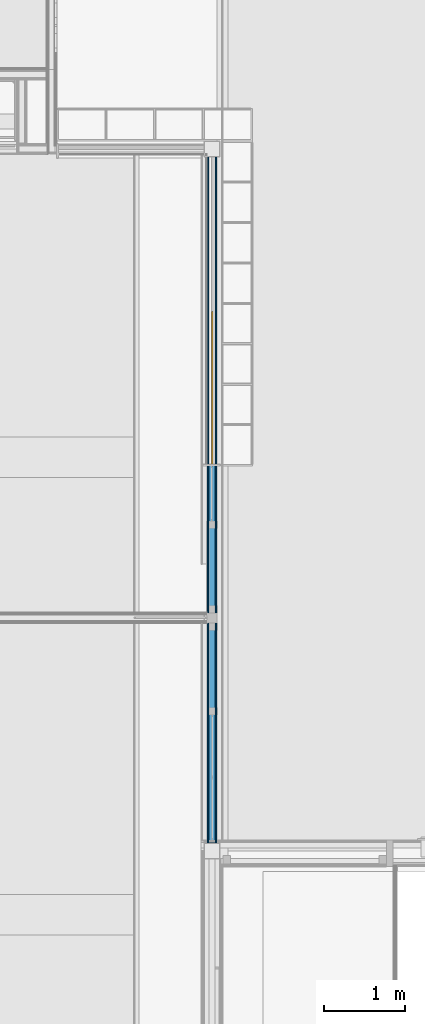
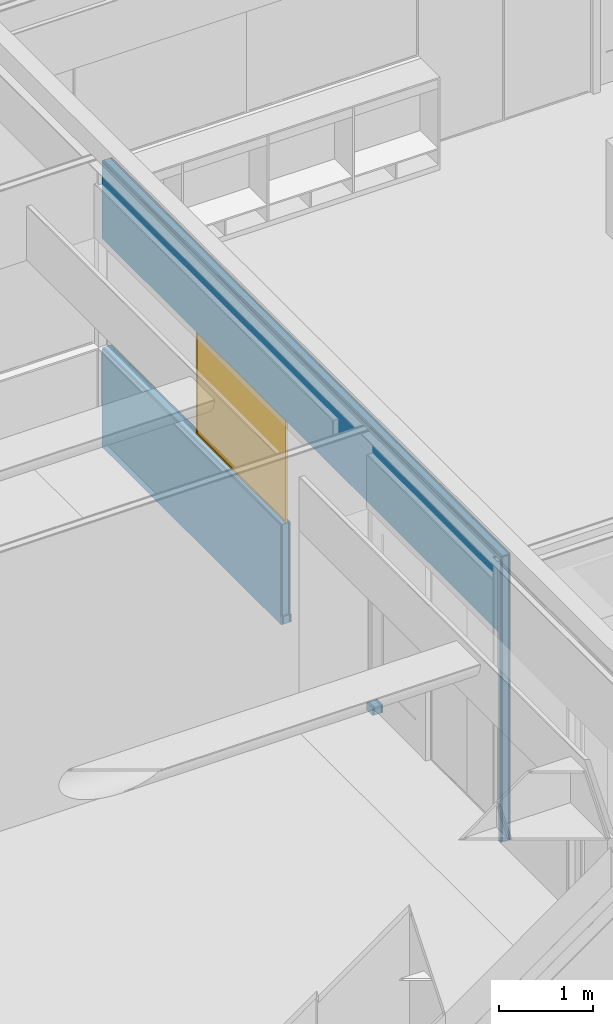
# One storey, part 58 of 137: 5 building element parts, 1 door, 7 openings, 1 element without a shape of its own.
"""IFC2X3 building model written with IfcOpenShell, lengths in millimetres."""

import ifcopenshell
import ifcopenshell.guid

model = None  # the IFC model being written
_history = None  # IfcOwnerHistory: only IFC2X3 demands one
_inside = {}  # id of a spatial element -> (the spatial element, [elements in it])
_under = {}  # id of a project, library or spatial element -> (it, [spatial elements below it])
_declared = {}  # id of a project -> (the project, [libraries it declares])
_typed = {}  # id of a type object -> (the type object, [elements of that type])
_made_of = {}  # id of a material, layer set ... -> (it, [elements and type objects made of it])


def new_model(schema):
    """Start an empty IFC model of exactly this schema.

    Asked for "IFC4X3", IfcOpenShell would pick the latest addendum, in which some entities
    have other attributes; the version numbers below select the first issue.
    IFC2X3 requires an IfcOwnerHistory on every rooted entity: one is made here for all.
    """
    global model, _history
    if schema == "IFC4X3":
        model = ifcopenshell.file(schema_version=(4, 3, 0, 0))
    else:
        model = ifcopenshell.file(schema=schema)
    _inside.clear()
    _under.clear()
    _declared.clear()
    _typed.clear()
    _made_of.clear()
    _history = None
    if model.schema == "IFC2X3":
        org = make("IfcOrganization", Name="unknown")
        user = make(
            "IfcPersonAndOrganization",
            ThePerson=make("IfcPerson", FamilyName="unknown"),
            TheOrganization=org,
        )
        app = make(
            "IfcApplication",
            ApplicationDeveloper=org,
            Version="unknown",
            ApplicationFullName="unknown",
            ApplicationIdentifier="unknown",
        )
        _history = make(
            "IfcOwnerHistory",
            OwningUser=user,
            OwningApplication=app,
            ChangeAction="ADDED",
            CreationDate=0,
        )
    return model


def make(cls, **values):
    """One entity of the class cls with the attributes given. An attribute that is None is left unset."""
    return model.create_entity(
        cls, **{name: value for name, value in values.items() if value is not None}
    )


def entity(cls, *values):
    """Any entity or typed value of the class cls, its attributes in the order of the schema. None: left unset."""
    e = model.create_entity(cls)
    for i, value in enumerate(values):
        if value is not None:
            e[i] = value
    return e


def rooted(cls, **values):
    """An entity with a GlobalId (a new one), such as an element, a storey or a relation."""
    return make(cls, GlobalId=ifcopenshell.guid.new(), OwnerHistory=_history, **values)


def si_unit(unit_type, name, prefix=None):
    """IfcSIUnit, for example si_unit("LENGTHUNIT", "METRE", prefix="MILLI")."""
    return make("IfcSIUnit", UnitType=unit_type, Prefix=prefix, Name=name)


def converted_unit(unit_type, name, factor, base, dimensions=None, offset=None):
    """IfcConversionBasedUnit, such as the inch: factor (a typed value) times the base unit."""
    return make(
        "IfcConversionBasedUnit"
        if offset is None
        else "IfcConversionBasedUnitWithOffset",
        ConversionOffset=offset,
        Dimensions=None
        if dimensions is None
        else entity("IfcDimensionalExponents", *dimensions),
        UnitType=unit_type,
        Name=name,
        ConversionFactor=make(
            "IfcMeasureWithUnit", ValueComponent=factor, UnitComponent=base
        ),
    )


def derived_unit(unit_type, elements):
    """IfcDerivedUnit: a product of units, each with its exponent."""
    return make(
        "IfcDerivedUnit",
        Elements=[
            make("IfcDerivedUnitElement", Unit=unit, Exponent=power)
            for unit, power in elements
        ],
        UnitType=unit_type,
    )


def money_unit(currency):
    """IfcMonetaryUnit."""
    return make("IfcMonetaryUnit", Currency=currency)


def assignment(units):
    """IfcUnitAssignment: the units of a project."""
    return None if units is None else make("IfcUnitAssignment", Units=units)


def point(xyz):
    """IfcCartesianPoint."""
    return None if xyz is None else make("IfcCartesianPoint", Coordinates=xyz)


def direction(xyz):
    """IfcDirection."""
    return None if xyz is None else make("IfcDirection", DirectionRatios=xyz)


def frame(location, z_axis=None, x_axis=None):
    """IfcAxis2Placement3D, a coordinate frame: its origin and axes. An axis left out is left unset."""
    return make(
        "IfcAxis2Placement3D",
        Location=point(location),
        Axis=direction(z_axis),
        RefDirection=direction(x_axis),
    )


def origin_with_axes():
    """The frame at (0, 0, 0) with the z axis (0, 0, 1) and the x axis (1, 0, 0) written out."""
    return frame((0.0, 0.0, 0.0), z_axis=(0.0, 0.0, 1.0), x_axis=(1.0, 0.0, 0.0))


def place(relative_to, where):
    """IfcLocalPlacement: puts the frame where relative to a parent placement (None: the world)."""
    return make(
        "IfcLocalPlacement", PlacementRelTo=relative_to, RelativePlacement=where
    )


def context(
    kind, dimensions, precision=None, world=None, true_north=None, identifier=None
):
    """IfcGeometricRepresentationContext, for example the 3D "Model" context."""
    return make(
        "IfcGeometricRepresentationContext",
        ContextIdentifier=identifier,
        ContextType=kind,
        CoordinateSpaceDimension=dimensions,
        Precision=precision,
        WorldCoordinateSystem=world,
        TrueNorth=true_north,
    )


def subcontext(parent, identifier, kind, view, scale=None):
    """IfcGeometricRepresentationSubContext, for example "Body" below "Model"."""
    return make(
        "IfcGeometricRepresentationSubContext",
        ContextIdentifier=identifier,
        ContextType=kind,
        ParentContext=parent,
        TargetScale=scale,
        TargetView=view,
    )


def project(units=None, contexts=None):
    """IfcProject with its units and contexts."""
    return rooted(
        "IfcProject",
        Name="project",
        RepresentationContexts=contexts,
        UnitsInContext=assignment(units),
    )


def spatial(cls, under=None, at=None, **own):
    """A site, building, storey or space (cls), placed at a placement, below another one or the project."""
    s = rooted(cls, ObjectPlacement=at, **own)
    if under is not None:
        _under.setdefault(under.id(), (under, []))[1].append(s)
    return s


def faces_of(points, faces, orient=None, outer=None):
    """IfcFace entities. A face is a list of loops; a loop is a list of indices into points, from 0.

    orient and outer hold one flag for each loop. By default every Orientation is true, the
    first loop of a face is its IfcFaceOuterBound and the others are IfcFaceBound.
    """
    made = []
    for i, loops in enumerate(faces):
        bounds = []
        for j, loop in enumerate(loops):
            is_outer = j == 0 if outer is None else outer[i][j]
            bounds.append(
                make(
                    "IfcFaceOuterBound" if is_outer else "IfcFaceBound",
                    Bound=make("IfcPolyLoop", Polygon=[points[k] for k in loop]),
                    Orientation=True if orient is None else orient[i][j],
                )
            )
        made.append(make("IfcFace", Bounds=bounds))
    return made


def open_shell(faces, orient=None, outer=None):
    """The faces of one IfcOpenShell. surface_model builds it on its shared points."""
    return ("IfcOpenShell", faces, orient, outer)


def faceted_brep(points, faces, orient=None, outer=None, voids=None):
    """IfcFacetedBrep: a solid bounded by flat faces; with voids (closed shells), ...WithVoids."""
    shared = [point(p) for p in points]
    hull = make("IfcClosedShell", CfsFaces=faces_of(shared, faces, orient, outer))
    if voids is None:
        return make("IfcFacetedBrep", Outer=hull)
    return make(
        "IfcFacetedBrepWithVoids",
        Outer=hull,
        Voids=[
            make(cls, CfsFaces=faces_of(shared, fs, o, b)) for cls, fs, o, b in voids
        ],
    )


def surface_model(cls, points, shells):
    """IfcFaceBasedSurfaceModel or IfcShellBasedSurfaceModel (cls): surfaces that need not close."""
    shared = [point(p) for p in points]
    made = [make(c, CfsFaces=faces_of(shared, fs, o, b)) for c, fs, o, b in shells]
    if cls == "IfcFaceBasedSurfaceModel":
        return make(cls, FbsmFaces=made)
    return make(cls, SbsmBoundary=made)


def shape(context_of_items, identifier, shape_type, items):
    """IfcShapeRepresentation: the items that make up one representation, for example the "Body"."""
    return make(
        "IfcShapeRepresentation",
        ContextOfItems=context_of_items,
        RepresentationIdentifier=identifier,
        RepresentationType=shape_type,
        Items=items,
    )


def material(Name=None, Category=None):
    """IfcMaterial."""
    return make("IfcMaterial", Name=Name, Category=Category)


def made_of(thing, what):
    """Note that an element or type object is made of a material, layer set ...; save() writes the relation."""
    if what is not None:
        _made_of.setdefault(what.id(), (what, []))[1].append(thing)
    return thing


def type_object(cls, material=None, **own):
    """A type object (cls), such as IfcWallType, which elements share."""
    return made_of(rooted(cls, **own), material)


def element(
    cls,
    number,
    at=None,
    inside=None,
    cuts=None,
    type_object=None,
    material=None,
    context=None,
    identifier="Body",
    shape_type=None,
    held_by="IfcProductDefinitionShape",
    body=None,
    shapes=None,
    **own,
):
    """One element of the class cls, such as IfcWall. Its Tag is "e" and its number.

    at: its placement. inside: the storey or other place that contains it. cuts: it is an
    opening in that element (IfcRelVoidsElement). A single representation is given by context,
    identifier, shape_type and body (its items); several are given by shapes. held_by: the class
    of the entity that holds the representations. save() writes the other relations.
    """
    e = rooted(cls, Tag="e%d" % number, ObjectPlacement=at, **own)
    if body is not None:
        shapes = [shape(context, identifier, shape_type, body)]
    if shapes is not None:
        e.Representation = make(held_by, Representations=shapes)
    if inside is not None:
        _inside.setdefault(inside.id(), (inside, []))[1].append(e)
    if cuts is not None:
        rooted(
            "IfcRelVoidsElement", RelatingBuildingElement=cuts, RelatedOpeningElement=e
        )
    if type_object is not None:
        _typed.setdefault(type_object.id(), (type_object, []))[1].append(e)
    return made_of(e, material)


def fill(opening, filler):
    """IfcRelFillsElement: the door or window that sits in an opening."""
    return rooted(
        "IfcRelFillsElement",
        RelatingOpeningElement=opening,
        RelatedBuildingElement=filler,
    )


def aggregate(whole, parts):
    """IfcRelAggregates: a whole, such as a stair, and the parts it consists of."""
    return rooted("IfcRelAggregates", RelatingObject=whole, RelatedObjects=parts)


def save(model, path):
    """Write the relations noted so far, then the file.

    IfcRelAggregates (storeys below a building ...), IfcRelContainedInSpatialStructure (elements
    in a storey), IfcRelDefinesByType, IfcRelAssociatesMaterial and IfcRelDeclares: one each for
    every whole, place, type object, material and project.
    """
    for whole, parts in _under.values():
        aggregate(whole, parts)
    for where, things in _inside.values():
        rooted(
            "IfcRelContainedInSpatialStructure",
            RelatedElements=things,
            RelatingStructure=where,
        )
    for kind, things in _typed.values():
        rooted("IfcRelDefinesByType", RelatedObjects=things, RelatingType=kind)
    for what, things in _made_of.values():
        rooted("IfcRelAssociatesMaterial", RelatedObjects=things, RelatingMaterial=what)
    for by, libraries in _declared.values():
        rooted("IfcRelDeclares", RelatingContext=by, RelatedDefinitions=libraries)
    model.write(path)


model = new_model("IFC2X3")

# Units and contexts
model_context = context("Model", 3, precision=0.01, world=origin_with_axes(), true_north=direction((0.0, 1.0)))
body_context = subcontext(model_context, "Body", "Model", "MODEL_VIEW")
ifc_project = project(units=[si_unit("LENGTHUNIT", "METRE", prefix="MILLI"), si_unit("AREAUNIT", "SQUARE_METRE"), si_unit("VOLUMEUNIT", "CUBIC_METRE"), converted_unit("PLANEANGLEUNIT", "DEGREE", entity("IfcPlaneAngleMeasure", 0.0174532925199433), si_unit("PLANEANGLEUNIT", "RADIAN"), dimensions=[0, 0, 0, 0, 0, 0, 0]), money_unit("EUR"), converted_unit("TIMEUNIT", "Year", entity("IfcTimeMeasure", 31556926.0), si_unit("TIMEUNIT", "SECOND"), dimensions=[0, 0, 1, 0, 0, 0, 0]), si_unit("MASSUNIT", "GRAM", prefix="KILO"), si_unit("THERMODYNAMICTEMPERATUREUNIT", "DEGREE_CELSIUS"), si_unit("LUMINOUSINTENSITYUNIT", "LUMEN"), si_unit("ENERGYUNIT", "JOULE", prefix="MEGA"), derived_unit("THERMALCONDUCTANCEUNIT", [(si_unit("POWERUNIT", "WATT"), 1), (si_unit("LENGTHUNIT", "METRE"), -1), (si_unit("THERMODYNAMICTEMPERATUREUNIT", "KELVIN"), -1)]), derived_unit("SPECIFICHEATCAPACITYUNIT", [(si_unit("ENERGYUNIT", "JOULE"), 1), (si_unit("MASSUNIT", "GRAM", prefix="KILO"), -1), (si_unit("THERMODYNAMICTEMPERATUREUNIT", "KELVIN"), -1)]), derived_unit("MASSDENSITYUNIT", [(si_unit("MASSUNIT", "GRAM", prefix="KILO"), 1), (si_unit("VOLUMEUNIT", "CUBIC_METRE"), -1)])], contexts=[model_context])

# Site, building, storey
site_placement = place(None, origin_with_axes())
site = spatial("IfcSite", under=ifc_project, at=site_placement, Name="Site", CompositionType="ELEMENT")
building_placement = place(site_placement, origin_with_axes())
building = spatial("IfcBuilding", under=site, at=building_placement, Name="Naam gebouw", CompositionType="ELEMENT")
storey_placement = place(building_placement, frame((0.0, 0.0, 3960.0), z_axis=(0.0, 0.0, 1.0), x_axis=(1.0, 0.0, 0.0)))
storey = spatial("IfcBuildingStorey", under=building, at=storey_placement, Name="1e verdieping", CompositionType="ELEMENT", Elevation=3960.0)

# Door
door_style = type_object("IfcDoorStyle", Name="R1 26", ConstructionType="NOTDEFINED", OperationType="SINGLE_SWING_RIGHT", ParameterTakesPrecedence=False, Sizeable=False)
proxy_placement = place(storey_placement, frame((8850.000000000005, 19449.9998112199, -100.0000000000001), z_axis=(0.0, 0.0, 1.0), x_axis=(0.0, -1.0, 0.0)))
opening_2_placement = place(proxy_placement, frame((2950.000000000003, 0.0, 1298.0), z_axis=(0.0, 0.0, 1.0), x_axis=(1.0, 0.0, 0.0)))
door_placement = place(opening_2_placement, frame((-949.9999999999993, 0.0, 0.0), z_axis=(0.0, 0.0, 1.0), x_axis=(1.0, 0.0, 0.0)))
door = element("IfcDoor", 1, at=door_placement, inside=storey, type_object=door_style, Name="_C.02", ObjectType="DOOR", OverallHeight=1400.0, OverallWidth=1900.0, context=body_context, shape_type="SurfaceModel", body=[
    faceted_brep([(1900.004002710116, 12.49999999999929, 2.000000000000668), (0.0, 12.49999999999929, 2.000000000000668), (0.0, 12.49999999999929, 19.99999999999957), (19.99999999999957, 12.49999999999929, 19.99999999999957), (1880.000000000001, 12.49999999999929, 19.99999999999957), (1900.0, 12.49999999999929, 19.99999999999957), (0.0, -7.500000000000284, 2.000000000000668), (1900.004002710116, -7.500000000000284, 2.000000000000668), (0.0, -7.500000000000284, 19.99999999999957), (19.99999999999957, -7.500000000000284, 19.99999999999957), (1880.000000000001, -7.500000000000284, 19.99999999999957), (1900.0, -7.500000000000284, 19.99999999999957)], [[[0, 1, 2, 3, 4, 5]], [[6, 1, 0, 7]], [[1, 6, 8, 2]], [[8, 9, 3, 2]], [[9, 10, 4, 3]], [[10, 11, 5, 4]], [[7, 0, 5, 11]], [[6, 7, 11, 10, 9, 8]]]),
    faceted_brep([(19.99999999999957, -7.500000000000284, 1380.0), (19.99999999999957, 12.49999999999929, 1380.0), (0.0, 12.49999999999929, 1380.0), (0.0, -7.500000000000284, 1380.0), (19.99999999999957, -7.500000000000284, 19.99999999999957), (19.99999999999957, 12.49999999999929, 19.99999999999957), (0.0, 12.49999999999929, 19.99999999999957), (0.0, -7.500000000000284, 19.99999999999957)], [[[0, 1, 2, 3]], [[4, 5, 1, 0]], [[1, 5, 6, 2]], [[3, 2, 6, 7]], [[0, 3, 7, 4]], [[7, 6, 5, 4]]]),
    faceted_brep([(1880.000000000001, -7.500000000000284, 19.99999999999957), (1880.000000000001, 12.49999999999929, 19.99999999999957), (1900.0, 12.49999999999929, 19.99999999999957), (1900.0, -7.500000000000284, 19.99999999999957), (1880.000000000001, -7.500000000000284, 1380.0), (1880.000000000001, 12.49999999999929, 1380.0), (1900.0, 12.49999999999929, 1380.0), (1900.0, -7.500000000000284, 1380.0)], [[[0, 1, 2, 3]], [[4, 5, 1, 0]], [[1, 5, 6, 2]], [[3, 2, 6, 7]], [[0, 3, 7, 4]], [[7, 6, 5, 4]]]),
    faceted_brep([(1880.000000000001, -7.500000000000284, 1380.0), (1880.000000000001, 12.49999999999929, 1380.0), (1900.0, 12.49999999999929, 1380.0), (1900.0, -7.500000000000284, 1380.0), (19.99999999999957, -7.500000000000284, 1380.0), (19.99999999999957, 12.49999999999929, 1380.0), (0.0, 12.49999999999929, 1380.0), (0.0, 12.49999999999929, 1400.0), (1900.0, 12.49999999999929, 1400.0), (1900.0, -7.500000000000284, 1400.0), (0.0, -7.500000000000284, 1400.0), (0.0, -7.500000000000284, 1380.0)], [[[0, 1, 2, 3]], [[4, 5, 1, 0]], [[1, 5, 6, 7, 8, 2]], [[3, 2, 8, 9]], [[0, 3, 9, 10, 11, 4]], [[11, 6, 5, 4]], [[10, 7, 6, 11]], [[9, 8, 7, 10]]]),
    surface_model("IfcShellBasedSurfaceModel", [(19.99999999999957, -2.500000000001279, 19.99999999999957), (1880.000000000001, -2.500000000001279, 19.99999999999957), (1880.000000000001, -2.500000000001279, 1380.0), (19.99999999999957, -2.500000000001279, 1380.0)], [open_shell([[[0, 1, 2, 3]]])]),
    surface_model("IfcShellBasedSurfaceModel", [(19.99999999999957, 7.500000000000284, 19.99999999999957), (19.99999999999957, 7.499999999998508, 1380.0), (1880.000000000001, 7.499999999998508, 1380.0), (1880.000000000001, 7.499999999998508, 19.99999999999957)], [open_shell([[[0, 1, 2, 3]]])]),
])

# Proxy, openings
building_element_proxy_type = type_object("IfcBuildingElementProxyType", Name="22 Metal stud 125 gips 125", PredefinedType="NOTDEFINED")
proxy = element("IfcBuildingElementProxy", 2, at=proxy_placement, inside=storey, type_object=building_element_proxy_type, Name="_Wand-x")
opening_1_placement = place(proxy_placement, frame((8119.999775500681, 0.0, 100.0000000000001), z_axis=(0.0, 0.0, 1.0), x_axis=(1.0, 0.0, 0.0)))
element("IfcOpeningElement", 3, at=opening_1_placement, cuts=proxy, Name="_B.08", context=body_context, shape_type="Brep", body=[
    faceted_brep([(-384.999925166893, 12.49999999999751, -100.0000000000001), (-384.999925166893, 12.49999999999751, 2600.0), (-384.999925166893, 63.49999999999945, 2600.0), (-384.999925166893, 63.49999999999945, -100.0000000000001), (-384.999925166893, -63.49999999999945, -100.0000000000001), (-384.999925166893, -63.49999999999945, 2600.0), (384.999925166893, 12.49999999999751, 2600.0), (384.999925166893, 63.49999999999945, 2600.0), (384.999925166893, -63.49999999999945, 2600.0), (384.999925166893, 63.49999999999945, -100.0000000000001), (384.999925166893, 12.49999999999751, -100.0000000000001), (384.999925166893, -63.49999999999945, -100.0000000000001)], [[[0, 1, 2, 3]], [[1, 0, 4, 5]], [[6, 7, 2, 1, 5, 8]], [[7, 9, 3, 2]], [[0, 3, 9, 10, 11, 4]], [[5, 4, 11, 8]], [[6, 10, 9, 7]], [[10, 6, 8, 11]]]),
])
opening_2 = element("IfcOpeningElement", 4, at=opening_2_placement, cuts=proxy, Name="_C.02", context=body_context, shape_type="Brep", body=[
    faceted_brep([(-949.9999999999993, 12.49999999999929, 0.0), (-949.9999999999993, 12.49999999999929, 1400.0), (-949.9999999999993, 63.49999999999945, 1400.0), (-949.9999999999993, 63.49999999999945, 0.0), (-949.9999999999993, -63.49999999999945, 0.0), (-949.9999999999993, -63.49999999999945, 1400.0), (950.000000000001, 12.49999999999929, 1400.0), (950.000000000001, 63.49999999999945, 1400.0), (950.000000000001, -63.49999999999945, 1400.0), (950.000000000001, 63.49999999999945, 0.0), (950.000000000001, 12.49999999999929, 0.0), (950.000000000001, -63.49999999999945, 0.0)], [[[0, 1, 2, 3]], [[1, 0, 4, 5]], [[6, 7, 2, 1, 5, 8]], [[7, 9, 3, 2]], [[0, 3, 9, 10, 11, 4]], [[5, 4, 11, 8]], [[6, 10, 9, 7]], [[10, 6, 8, 11]]]),
])

fill(opening_2, door)

# Opening
opening_3_placement = place(proxy_placement, frame((4240.000000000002, 0.0, 100.0000000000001), z_axis=(0.0, 0.0, 1.0), x_axis=(1.0, 0.0, 0.0)))
element("IfcOpeningElement", 5, at=opening_3_placement, cuts=proxy, Name="_B.07", context=body_context, shape_type="Brep", body=[
    faceted_brep([(339.9999999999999, -12.49999999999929, -100.0000000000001), (339.9999999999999, -12.49999999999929, 2600.0), (339.9999999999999, -63.49999999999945, 2600.0), (339.9999999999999, -63.49999999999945, -100.0000000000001), (339.9999999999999, 63.49999999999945, -100.0000000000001), (339.9999999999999, 63.49999999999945, 2600.0), (-339.9999999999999, -12.49999999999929, 2600.0), (-339.9999999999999, -63.49999999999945, 2600.0), (-339.9999999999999, 63.49999999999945, 2600.0), (-339.9999999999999, -63.49999999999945, -100.0000000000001), (-339.9999999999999, -12.49999999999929, -100.0000000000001), (-339.9999999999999, 63.49999999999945, -100.0000000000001)], [[[0, 1, 2, 3]], [[1, 0, 4, 5]], [[6, 7, 2, 1, 5, 8]], [[7, 9, 3, 2]], [[0, 3, 9, 10, 11, 4]], [[5, 4, 11, 8]], [[6, 10, 9, 7]], [[10, 6, 8, 11]]]),
])

opening_4_placement = place(proxy_placement, frame((5145.000000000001, 0.0, 100.0000000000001), z_axis=(0.0, 0.0, 1.0), x_axis=(1.0, 0.0, 0.0)))
element("IfcOpeningElement", 6, at=opening_4_placement, cuts=proxy, Name="_02.01", context=body_context, shape_type="Brep", body=[
    faceted_brep([(564.9999999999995, 63.49999999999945, 2600.0), (564.9999999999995, 63.49999999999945, -100.0000000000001), (-564.9999999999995, 63.49999999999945, -100.0000000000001), (-564.9999999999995, 63.49999999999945, 2600.0), (564.9999999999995, -63.49999999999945, 2600.0), (564.9999999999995, -63.49999999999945, -100.0000000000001), (-564.9999999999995, -63.49999999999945, -100.0000000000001), (-564.9999999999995, -63.49999999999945, 2600.0)], [[[0, 1, 2, 3]], [[4, 5, 1, 0]], [[5, 6, 2, 1]], [[6, 7, 3, 2]], [[7, 4, 0, 3]], [[6, 5, 4, 7]]]),
])

opening_5_placement = place(proxy_placement, frame((7349.999925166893, 0.0, 100.0000000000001), z_axis=(0.0, 0.0, 1.0), x_axis=(1.0, 0.0, 0.0)))
element("IfcOpeningElement", 7, at=opening_5_placement, cuts=proxy, Name="_B.08", context=body_context, shape_type="Brep", body=[
    faceted_brep([(-384.999925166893, 12.49999999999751, -100.0000000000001), (-384.999925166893, 12.49999999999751, 2600.0), (-384.999925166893, 63.49999999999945, 2600.0), (-384.999925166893, 63.49999999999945, -100.0000000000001), (-384.999925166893, -63.49999999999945, -100.0000000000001), (-384.999925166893, -63.49999999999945, 2600.0), (384.999925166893, 12.49999999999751, 2600.0), (384.999925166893, 63.49999999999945, 2600.0), (384.999925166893, -63.49999999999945, 2600.0), (384.999925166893, 63.49999999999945, -100.0000000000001), (384.999925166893, 12.49999999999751, -100.0000000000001), (384.999925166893, -63.49999999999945, -100.0000000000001)], [[[0, 1, 2, 3]], [[1, 0, 4, 5]], [[6, 7, 2, 1, 5, 8]], [[7, 9, 3, 2]], [[0, 3, 9, 10, 11, 4]], [[5, 4, 11, 8]], [[6, 10, 9, 7]], [[10, 6, 8, 11]]]),
])

opening_6_placement = place(proxy_placement, frame((6400.0, 0.0, 100.0000000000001), z_axis=(0.0, 0.0, 1.0), x_axis=(1.0, 0.0, 0.0)))
element("IfcOpeningElement", 8, at=opening_6_placement, cuts=proxy, Name="_01.01", context=body_context, shape_type="Brep", body=[
    faceted_brep([(-564.9999999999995, -63.49999999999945, 2600.0), (-564.9999999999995, -63.49999999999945, -100.0000000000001), (564.9999999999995, -63.49999999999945, -100.0000000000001), (564.9999999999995, -63.49999999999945, 2600.0), (-564.9999999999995, 63.49999999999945, 2600.0), (-564.9999999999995, 63.49999999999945, -100.0000000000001), (564.9999999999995, 63.49999999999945, -100.0000000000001), (564.9999999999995, 63.49999999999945, 2600.0)], [[[0, 1, 2, 3]], [[4, 5, 1, 0]], [[5, 6, 2, 1]], [[6, 7, 3, 2]], [[7, 4, 0, 3]], [[6, 5, 4, 7]]]),
])

opening_7_placement = place(proxy_placement, frame((1050.000000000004, 0.0, 1298.0), z_axis=(0.0, 0.0, 1.0), x_axis=(1.0, 0.0, 0.0)))
element("IfcOpeningElement", 9, at=opening_7_placement, cuts=proxy, Name="_C.02", context=body_context, shape_type="Brep", body=[
    faceted_brep([(-949.9999999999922, 12.49999999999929, 0.0), (-949.9999999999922, 12.49999999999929, 1400.0), (-949.9999999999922, 63.49999999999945, 1400.0), (-949.9999999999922, 63.49999999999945, 0.0), (-949.9999999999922, -63.49999999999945, 0.0), (-949.9999999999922, -63.49999999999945, 1400.0), (949.9999999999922, 12.49999999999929, 1400.0), (949.9999999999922, 63.49999999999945, 1400.0), (949.9999999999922, -63.49999999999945, 1400.0), (949.9999999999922, 63.49999999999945, 0.0), (949.9999999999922, 12.49999999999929, 0.0), (949.9999999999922, -63.49999999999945, 0.0)], [[[0, 1, 2, 3]], [[1, 0, 4, 5]], [[6, 7, 2, 1, 5, 8]], [[7, 9, 3, 2]], [[0, 3, 9, 10, 11, 4]], [[5, 4, 11, 8]], [[6, 10, 9, 7]], [[10, 6, 8, 11]]]),
])

# Building element part
ifc_material_1 = material(Name="Gipsplaat")
building_element_part_1_placement = place(proxy_placement, origin_with_axes())
building_element_part_1 = element("IfcBuildingElementPart", 10, at=building_element_part_1_placement, material=ifc_material_1, Name="Gipsplaat", context=body_context, shape_type="Brep", body=[
    faceted_brep([(100.0000000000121, 37.49999999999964, 1280.000000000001), (100.0000000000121, 50.00000000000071, 1280.000000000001), (100.0000000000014, 50.00000000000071, 0.0), (100.0000000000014, 37.49999999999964, 0.0), (3880.004312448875, 50.00000000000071, 1280.000000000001), (3880.004288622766, 37.49999999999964, 1280.000000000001), (3880.004312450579, 50.00000000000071, 100.0000000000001), (3900.004312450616, 49.99999999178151, 100.0000000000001), (3900.000000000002, 50.00000000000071, 0.0), (3900.000000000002, 37.49999999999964, 0.0), (3900.004288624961, 37.49999999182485, 100.0000000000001), (3880.004288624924, 37.49999999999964, 100.0000000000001)], [[[0, 1, 2, 3]], [[4, 1, 0, 5]], [[1, 4, 6, 7, 8, 2]], [[9, 3, 2, 8]], [[5, 0, 3, 9, 10, 11]], [[4, 5, 11, 6]], [[6, 11, 10, 7]], [[10, 9, 8, 7]]]),
    faceted_brep([(8539.999700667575, 49.99999999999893, 0.0), (8504.999700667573, 49.99999999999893, 0.0), (8504.999700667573, 49.99999999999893, 2700.0), (5835.000000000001, 49.99999999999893, 2700.0), (5710.000000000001, 49.99999999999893, 2700.0), (3900.000000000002, 50.00000000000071, 2700.0), (3900.000000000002, 50.00000000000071, 2698.0), (100.0000000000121, 50.00000000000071, 2698.0), (100.0000000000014, 50.00000000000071, 3683.000002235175), (8539.999700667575, 49.99999999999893, 3683.000002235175), (8539.999700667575, 37.49999999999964, 0.0), (8504.999700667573, 37.49999999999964, 0.0), (8504.999700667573, 37.49999999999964, 2700.0), (5835.000000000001, 37.49999999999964, 2700.0), (5710.000000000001, 37.49999999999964, 2700.0), (3900.000000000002, 37.49999999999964, 2700.0), (3900.000000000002, 37.49999999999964, 2698.0), (100.0000000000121, 37.49999999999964, 2698.0), (100.0000000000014, 37.49999999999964, 3683.000002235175), (8539.999700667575, 37.49999999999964, 3683.000002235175)], [[[0, 1, 2, 3, 4, 5, 6, 7, 8, 9]], [[1, 0, 10, 11]], [[1, 11, 12, 2]], [[3, 2, 12, 13]], [[4, 3, 13, 14]], [[14, 15, 5, 4]], [[16, 6, 5, 15]], [[7, 6, 16, 17]], [[7, 17, 18, 8]], [[9, 8, 18, 19]], [[10, 0, 9, 19]], [[17, 16, 15, 14, 13, 12, 11, 10, 19, 18]]]),
    faceted_brep([(5710.000000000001, 37.49999999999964, 100.0000000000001), (5710.000000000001, 49.99999999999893, 100.0000000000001), (5710.000000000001, 49.99999999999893, 0.0), (5710.000000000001, 37.49999999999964, 0.0), (5835.000000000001, 49.99999999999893, 100.0000000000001), (5835.000000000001, 37.49999999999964, 100.0000000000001), (5835.000000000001, 49.99999999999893, 0.0), (5835.000000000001, 37.49999999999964, 0.0)], [[[0, 1, 2, 3]], [[4, 1, 0, 5]], [[1, 4, 6, 2]], [[2, 6, 7, 3]], [[5, 0, 3, 7]], [[4, 5, 7, 6]]]),
    faceted_brep([(100.0000000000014, 50.00000000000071, 3695.000002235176), (100.0000000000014, 50.00000000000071, 3699.999999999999), (8539.999700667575, 49.99999999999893, 3699.999999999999), (8539.999700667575, 49.99999999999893, 3695.000002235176), (100.0000000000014, 37.49999999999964, 3699.999999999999), (100.0000000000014, 37.49999999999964, 3695.000002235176), (8539.999700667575, 37.49999999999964, 3699.999999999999), (8539.999700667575, 37.49999999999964, 3695.000002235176)], [[[0, 1, 2, 3]], [[4, 1, 0, 5]], [[1, 4, 6, 2]], [[3, 2, 6, 7]], [[5, 0, 3, 7]], [[4, 5, 7, 6]]]),
])

building_element_part_2_placement = place(proxy_placement, origin_with_axes())
building_element_part_2 = element("IfcBuildingElementPart", 11, at=building_element_part_2_placement, material=ifc_material_1, Name="Gipsplaat", context=body_context, shape_type="Brep", body=[
    faceted_brep([(100.0000000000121, -50.00000000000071, 1280.000000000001), (100.0000000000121, -37.49999999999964, 1280.000000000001), (100.0000000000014, -37.49999999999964, 0.0), (100.0000000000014, -50.00000000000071, 0.0), (3880.004145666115, -37.49999999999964, 1280.000000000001), (3880.004121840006, -49.99999999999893, 1280.000000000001), (3880.004145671, -37.49999999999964, 100.0000000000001), (3900.004145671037, -37.50000000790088, 100.0000000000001), (3900.000000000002, -37.49999999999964, 0.0), (3900.000000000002, -50.00000000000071, 0.0), (3900.004121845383, -50.00000000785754, 100.0000000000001), (3880.004121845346, -49.99999999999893, 100.0000000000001)], [[[0, 1, 2, 3]], [[4, 1, 0, 5]], [[1, 4, 6, 7, 8, 2]], [[9, 3, 2, 8]], [[5, 0, 3, 9, 10, 11]], [[4, 5, 11, 6]], [[6, 11, 10, 7]], [[10, 9, 8, 7]]]),
    faceted_brep([(8539.999700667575, -37.50000000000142, 0.0), (8504.999700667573, -37.50000000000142, 0.0), (8504.999700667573, -37.50000000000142, 2700.0), (5835.000000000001, -37.50000000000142, 2700.0), (5710.000000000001, -37.50000000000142, 2700.0), (3900.000000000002, -37.49999999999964, 2700.0), (3900.000000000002, -37.49999999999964, 2698.0), (100.0000000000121, -37.49999999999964, 2698.0), (100.0000000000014, -37.49999999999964, 3683.000002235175), (8539.999700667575, -37.50000000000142, 3683.000002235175), (8539.999700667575, -50.00000000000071, 0.0), (8504.999700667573, -50.00000000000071, 0.0), (8504.999700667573, -50.00000000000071, 2700.0), (5835.000000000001, -49.99999999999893, 2700.0), (5710.000000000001, -49.99999999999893, 2700.0), (3900.000000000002, -49.99999999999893, 2700.0), (3900.000000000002, -49.99999999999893, 2698.0), (100.0000000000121, -49.99999999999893, 2698.0), (100.0000000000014, -49.99999999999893, 3683.000002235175), (8539.999700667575, -50.00000000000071, 3683.000002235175)], [[[0, 1, 2, 3, 4, 5, 6, 7, 8, 9]], [[1, 0, 10, 11]], [[1, 11, 12, 2]], [[3, 2, 12, 13]], [[4, 3, 13, 14]], [[14, 15, 5, 4]], [[16, 6, 5, 15]], [[7, 6, 16, 17]], [[7, 17, 18, 8]], [[9, 8, 18, 19]], [[10, 0, 9, 19]], [[17, 16, 15, 14, 13, 12, 11, 10, 19, 18]]]),
    faceted_brep([(5710.000000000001, -50.00000000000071, 100.0000000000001), (5710.000000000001, -37.50000000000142, 100.0000000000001), (5710.000000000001, -37.50000000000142, 0.0), (5710.000000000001, -50.00000000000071, 0.0), (5835.000000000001, -37.50000000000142, 100.0000000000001), (5835.000000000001, -50.00000000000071, 100.0000000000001), (5835.000000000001, -37.50000000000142, 0.0), (5835.000000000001, -50.00000000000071, 0.0)], [[[0, 1, 2, 3]], [[4, 1, 0, 5]], [[1, 4, 6, 2]], [[2, 6, 7, 3]], [[5, 0, 3, 7]], [[4, 5, 7, 6]]]),
    faceted_brep([(100.0000000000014, -37.49999999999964, 3695.000002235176), (100.0000000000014, -37.49999999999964, 3699.999999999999), (8539.999700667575, -37.50000000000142, 3699.999999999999), (8539.999700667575, -37.50000000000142, 3695.000002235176), (100.0000000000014, -49.99999999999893, 3699.999999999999), (100.0000000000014, -49.99999999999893, 3695.000002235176), (8539.999700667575, -50.00000000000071, 3699.999999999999), (8539.999700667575, -50.00000000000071, 3695.000002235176)], [[[0, 1, 2, 3]], [[4, 1, 0, 5]], [[1, 4, 6, 2]], [[3, 2, 6, 7]], [[5, 0, 3, 7]], [[4, 5, 7, 6]]]),
])

building_element_part_3_placement = place(proxy_placement, origin_with_axes())
building_element_part_3 = element("IfcBuildingElementPart", 12, at=building_element_part_3_placement, material=ifc_material_1, Name="Gipsplaat", context=body_context, shape_type="Brep", body=[
    faceted_brep([(100.0000000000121, -62.5, 1280.000000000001), (100.0000000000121, -50.00000000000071, 1280.000000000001), (100.0000000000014, -50.00000000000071, 0.0), (100.0000000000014, -62.5, 0.0), (3880.004121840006, -50.00000000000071, 1280.000000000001), (3880.004098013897, -62.5, 1280.000000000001), (3880.004121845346, -50.00000000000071, 100.0000000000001), (3900.004121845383, -50.00000000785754, 100.0000000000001), (3900.000000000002, -50.00000000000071, 0.0), (3900.000000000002, -62.5, 0.0), (3900.004098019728, -62.50000000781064, 100.0000000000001), (3880.004098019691, -62.5, 100.0000000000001)], [[[0, 1, 2, 3]], [[4, 1, 0, 5]], [[1, 4, 6, 7, 8, 2]], [[9, 3, 2, 8]], [[5, 0, 3, 9, 10, 11]], [[4, 5, 11, 6]], [[6, 11, 10, 7]], [[10, 9, 8, 7]]]),
    faceted_brep([(8539.999700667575, -50.00000000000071, 0.0), (8504.999700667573, -50.00000000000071, 0.0), (8504.999700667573, -50.00000000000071, 2700.0), (5835.000000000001, -50.00000000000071, 2700.0), (5710.000000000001, -50.00000000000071, 2700.0), (3900.000000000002, -50.00000000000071, 2700.0), (3900.000000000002, -50.00000000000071, 2698.0), (100.0000000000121, -49.99999999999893, 2698.0), (100.0000000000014, -49.99999999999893, 3683.000002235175), (8539.999700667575, -50.00000000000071, 3683.000002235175), (8539.999700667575, -62.50000000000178, 0.0), (8504.999700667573, -62.50000000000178, 0.0), (8504.999700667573, -62.5, 2700.0), (5835.000000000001, -62.5, 2700.0), (5710.000000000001, -62.5, 2700.0), (3900.000000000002, -62.5, 2700.0), (3900.000000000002, -62.5, 2698.0), (100.0000000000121, -62.5, 2698.0), (100.0000000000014, -62.5, 3683.000002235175), (8539.999700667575, -62.5, 3683.000002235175)], [[[0, 1, 2, 3, 4, 5, 6, 7, 8, 9]], [[1, 0, 10, 11]], [[1, 11, 12, 2]], [[3, 2, 12, 13]], [[4, 3, 13, 14]], [[14, 15, 5, 4]], [[16, 6, 5, 15]], [[7, 6, 16, 17]], [[7, 17, 18, 8]], [[9, 8, 18, 19]], [[10, 0, 9, 19]], [[17, 16, 15, 14, 13, 12, 11, 10, 19, 18]]]),
    faceted_brep([(5710.000000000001, -62.5, 100.0000000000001), (5710.000000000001, -50.00000000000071, 100.0000000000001), (5710.000000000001, -50.00000000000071, 0.0), (5710.000000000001, -62.50000000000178, 0.0), (5835.000000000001, -50.00000000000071, 100.0000000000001), (5835.000000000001, -62.5, 100.0000000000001), (5835.000000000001, -50.00000000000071, 0.0), (5835.000000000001, -62.50000000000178, 0.0)], [[[0, 1, 2, 3]], [[4, 1, 0, 5]], [[1, 4, 6, 2]], [[2, 6, 7, 3]], [[5, 0, 3, 7]], [[4, 5, 7, 6]]]),
    faceted_brep([(100.0000000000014, -49.99999999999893, 3695.000002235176), (100.0000000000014, -49.99999999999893, 3699.999999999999), (8539.999700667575, -50.00000000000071, 3699.999999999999), (8539.999700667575, -50.00000000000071, 3695.000002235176), (100.0000000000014, -62.5, 3699.999999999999), (100.0000000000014, -62.5, 3695.000002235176), (8539.999700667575, -62.5, 3699.999999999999), (8539.999700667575, -62.5, 3695.000002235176)], [[[0, 1, 2, 3]], [[4, 1, 0, 5]], [[1, 4, 6, 2]], [[3, 2, 6, 7]], [[5, 0, 3, 7]], [[4, 5, 7, 6]]]),
])

ifc_material_2 = material(Name="ALG - LICHTE SCHEIDINGSWAND")
building_element_part_4_placement = place(proxy_placement, origin_with_axes())
building_element_part_4 = element("IfcBuildingElementPart", 13, at=building_element_part_4_placement, material=ifc_material_2, Name="ALG - LICHTE SCHEIDINGSWAND", context=body_context, shape_type="Brep", body=[
    faceted_brep([(100.0000000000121, -37.49999999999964, 1280.000000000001), (100.0000000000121, 37.49999999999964, 1280.000000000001), (100.0000000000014, 37.49999999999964, 0.0), (100.0000000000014, -37.49999999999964, 0.0), (3880.004288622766, 37.49999999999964, 1280.000000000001), (3880.004145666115, -37.49999999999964, 1280.000000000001), (3880.004288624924, 37.49999999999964, 100.0000000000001), (3900.004288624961, 37.49999999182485, 100.0000000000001), (3900.000000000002, 37.49999999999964, 0.0), (3900.000000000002, -37.49999999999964, 0.0), (3900.004145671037, -37.50000000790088, 100.0000000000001), (3880.004145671, -37.49999999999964, 100.0000000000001)], [[[0, 1, 2, 3]], [[4, 1, 0, 5]], [[1, 4, 6, 7, 8, 2]], [[2, 8, 9, 3]], [[5, 0, 3, 9, 10, 11]], [[4, 5, 11, 6]], [[6, 11, 10, 7]], [[10, 9, 8, 7]]]),
    faceted_brep([(8539.999700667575, 37.49999999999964, 0.0), (8504.999700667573, 37.49999999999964, 0.0), (8504.999700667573, 37.49999999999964, 2700.0), (5835.000000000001, 37.49999999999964, 2700.0), (5710.000000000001, 37.49999999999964, 2700.0), (3900.000000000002, 37.49999999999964, 2700.0), (3900.000000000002, 37.49999999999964, 2698.0), (100.0000000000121, 37.49999999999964, 2698.0), (100.0000000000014, 37.49999999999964, 3683.000002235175), (8539.999700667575, 37.49999999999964, 3683.000002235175), (8504.999700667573, -37.50000000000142, 0.0), (8539.999700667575, -37.50000000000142, 0.0), (8504.999700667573, -37.50000000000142, 2700.0), (5835.000000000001, -37.50000000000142, 2700.0), (5710.000000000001, -37.50000000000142, 2700.0), (3900.000000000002, -37.49999999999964, 2700.0), (3900.000000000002, -37.49999999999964, 2698.0), (100.0000000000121, -37.49999999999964, 2698.0), (100.0000000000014, -37.49999999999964, 3683.000002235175), (8539.999700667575, -37.50000000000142, 3683.000002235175)], [[[0, 1, 2, 3, 4, 5, 6, 7, 8, 9]], [[10, 1, 0, 11]], [[10, 12, 2, 1]], [[3, 2, 12, 13]], [[4, 3, 13, 14]], [[14, 15, 5, 4]], [[6, 5, 15, 16]], [[6, 16, 17, 7]], [[8, 7, 17, 18]], [[8, 18, 19, 9]], [[0, 9, 19, 11]], [[17, 16, 15, 14, 13, 12, 10, 11, 19, 18]]]),
    faceted_brep([(5710.000000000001, -37.50000000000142, 100.0000000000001), (5710.000000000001, 37.49999999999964, 100.0000000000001), (5710.000000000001, 37.49999999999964, 0.0), (5710.000000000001, -37.50000000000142, 0.0), (5835.000000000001, 37.49999999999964, 100.0000000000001), (5835.000000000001, -37.50000000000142, 100.0000000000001), (5835.000000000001, 37.49999999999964, 0.0), (5835.000000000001, -37.50000000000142, 0.0)], [[[0, 1, 2, 3]], [[4, 1, 0, 5]], [[1, 4, 6, 2]], [[2, 6, 7, 3]], [[5, 0, 3, 7]], [[4, 5, 7, 6]]]),
    faceted_brep([(100.0000000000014, 37.49999999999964, 3695.000002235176), (100.0000000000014, 37.49999999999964, 3699.999999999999), (8539.999700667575, 37.49999999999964, 3699.999999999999), (8539.999700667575, 37.49999999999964, 3695.000002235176), (100.0000000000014, -37.49999999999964, 3699.999999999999), (100.0000000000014, -37.49999999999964, 3695.000002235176), (8539.999700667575, -37.50000000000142, 3699.999999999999), (8539.999700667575, -37.50000000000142, 3695.000002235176)], [[[0, 1, 2, 3]], [[4, 1, 0, 5]], [[1, 4, 6, 2]], [[3, 2, 6, 7]], [[5, 0, 3, 7]], [[4, 5, 7, 6]]]),
])

building_element_part_5_placement = place(proxy_placement, origin_with_axes())
building_element_part_5 = element("IfcBuildingElementPart", 14, at=building_element_part_5_placement, material=ifc_material_1, Name="Gipsplaat", context=body_context, shape_type="Brep", body=[
    faceted_brep([(100.0000000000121, 50.00000000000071, 1280.000000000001), (100.0000000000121, 62.5, 1280.000000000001), (100.0000000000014, 62.5, 0.0), (100.0000000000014, 50.00000000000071, 0.0), (3880.004336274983, 62.5, 1280.000000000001), (3880.004312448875, 50.00000000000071, 1280.000000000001), (3880.004336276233, 62.5, 100.0000000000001), (3900.00433627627, 62.49999999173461, 100.0000000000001), (3900.000000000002, 62.5, 0.0), (3900.000000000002, 50.00000000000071, 0.0), (3900.004312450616, 49.99999999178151, 100.0000000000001), (3880.004312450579, 50.00000000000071, 100.0000000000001)], [[[0, 1, 2, 3]], [[4, 1, 0, 5]], [[1, 4, 6, 7, 8, 2]], [[9, 3, 2, 8]], [[5, 0, 3, 9, 10, 11]], [[4, 5, 11, 6]], [[6, 11, 10, 7]], [[10, 9, 8, 7]]]),
    faceted_brep([(8539.999700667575, 62.49999999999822, 0.0), (8504.999700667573, 62.49999999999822, 0.0), (8504.999700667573, 62.49999999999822, 2700.0), (5835.000000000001, 62.5, 2700.0), (5710.000000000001, 62.5, 2700.0), (3900.000000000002, 62.5, 2700.0), (3900.000000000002, 62.5, 2698.0), (100.0000000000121, 62.5, 2698.0), (100.0000000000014, 62.5, 3683.000002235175), (8539.999700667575, 62.5, 3683.000002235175), (8539.999700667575, 49.99999999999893, 0.0), (8504.999700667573, 49.99999999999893, 0.0), (8504.999700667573, 50.00000000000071, 2700.0), (5835.000000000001, 50.00000000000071, 2700.0), (5710.000000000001, 50.00000000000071, 2700.0), (3900.000000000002, 50.00000000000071, 2700.0), (3900.000000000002, 50.00000000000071, 2698.0), (100.0000000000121, 50.00000000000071, 2698.0), (100.0000000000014, 50.00000000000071, 3683.000002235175), (8539.999700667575, 49.99999999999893, 3683.000002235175)], [[[0, 1, 2, 3, 4, 5, 6, 7, 8, 9]], [[1, 0, 10, 11]], [[1, 11, 12, 2]], [[3, 2, 12, 13]], [[4, 3, 13, 14]], [[14, 15, 5, 4]], [[16, 6, 5, 15]], [[7, 6, 16, 17]], [[7, 17, 18, 8]], [[9, 8, 18, 19]], [[10, 0, 9, 19]], [[17, 16, 15, 14, 13, 12, 11, 10, 19, 18]]]),
    faceted_brep([(5710.000000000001, 49.99999999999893, 100.0000000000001), (5710.000000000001, 62.5, 100.0000000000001), (5710.000000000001, 62.49999999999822, 0.0), (5710.000000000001, 49.99999999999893, 0.0), (5835.000000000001, 62.5, 100.0000000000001), (5835.000000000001, 49.99999999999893, 100.0000000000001), (5835.000000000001, 62.49999999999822, 0.0), (5835.000000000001, 49.99999999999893, 0.0)], [[[0, 1, 2, 3]], [[4, 1, 0, 5]], [[1, 4, 6, 2]], [[2, 6, 7, 3]], [[5, 0, 3, 7]], [[4, 5, 7, 6]]]),
    faceted_brep([(100.0000000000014, 62.5, 3695.000002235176), (100.0000000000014, 62.5, 3699.999999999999), (8539.999700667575, 62.5, 3699.999999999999), (8539.999700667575, 62.5, 3695.000002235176), (100.0000000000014, 50.00000000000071, 3699.999999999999), (100.0000000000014, 50.00000000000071, 3695.000002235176), (8539.999700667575, 49.99999999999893, 3699.999999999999), (8539.999700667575, 49.99999999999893, 3695.000002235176)], [[[0, 1, 2, 3]], [[4, 1, 0, 5]], [[1, 4, 6, 2]], [[3, 2, 6, 7]], [[5, 0, 3, 7]], [[4, 5, 7, 6]]]),
])

aggregate(proxy, [building_element_part_1, building_element_part_2, building_element_part_3, building_element_part_4, building_element_part_5])

save(model, "model.ifc")
